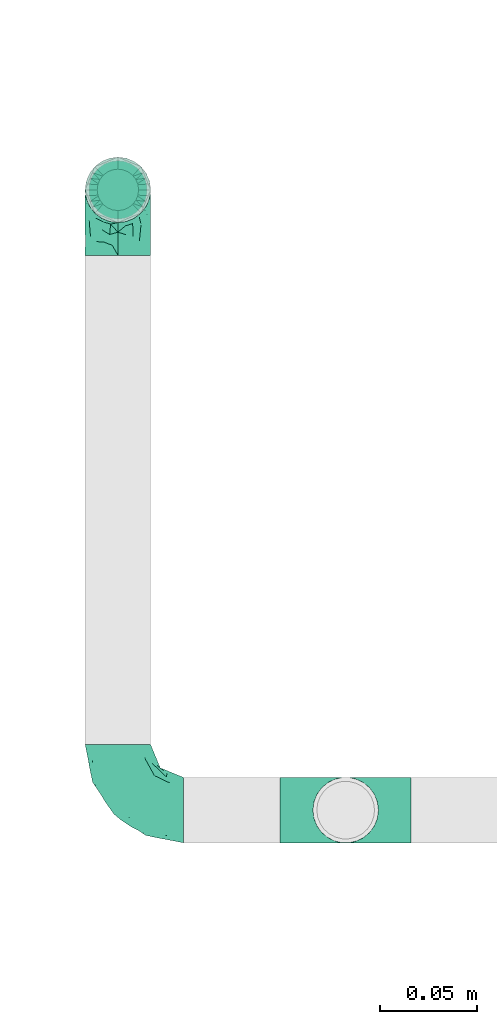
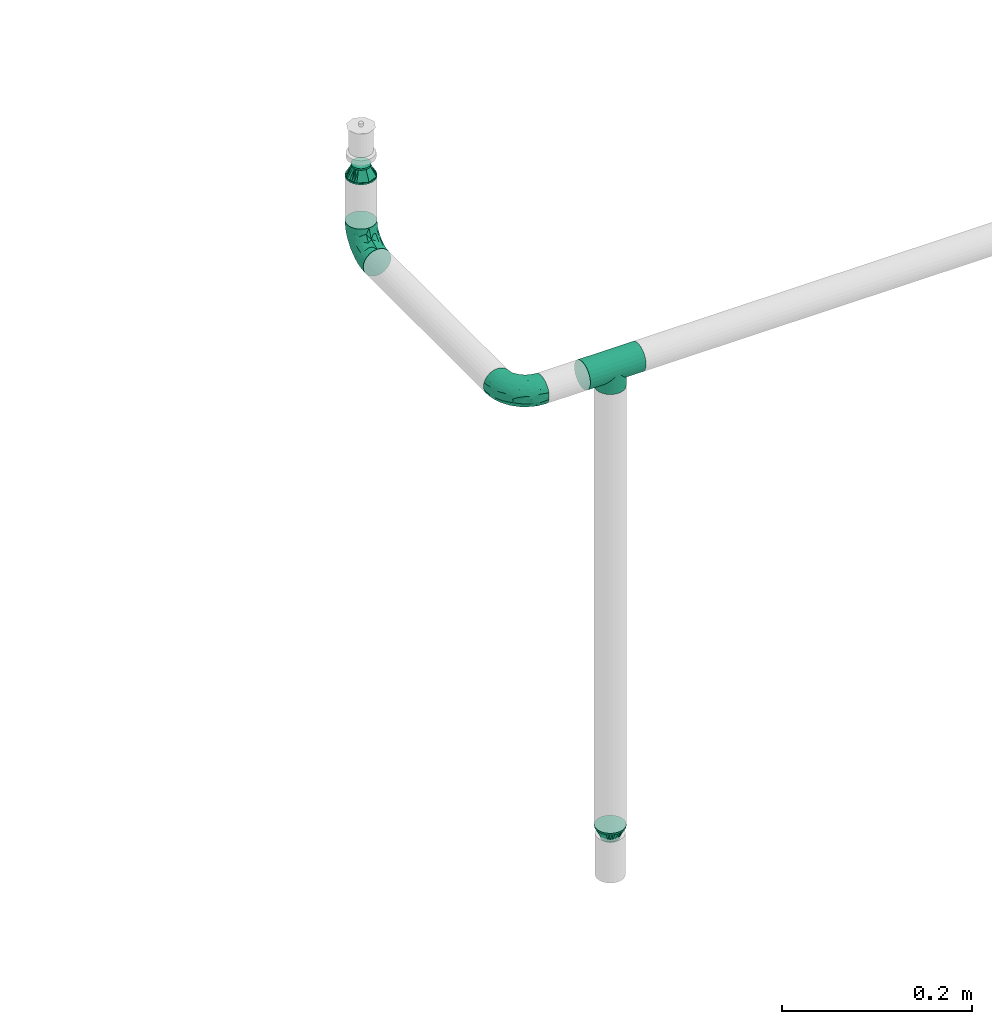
# One storey, part 78 of 94: 5 flow fittings.
"""IFC2X3 building model written with IfcOpenShell, lengths in millimetres."""

from ifc_helpers import new_model, entity, si_unit, converted_unit, derived_unit, direction, frame, origin_with_axes, place, context, subcontext, project, spatial, open_shell, surface_model, source, transform, mapped, type_object, element, save


model = new_model("IFC2X3")

# Units and contexts
model_context = context("Model", 3, precision=0.01, world=frame((0.0, 4.29681676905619e-09, 0.0)), true_north=direction((4.01073788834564e-13, 1.0)))
plan_context = context("Plan", 3, precision=0.01, world=frame((0.0, 4.29681676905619e-09, 0.0)), true_north=direction((4.01073788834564e-13, 1.0)))
body_context = subcontext(model_context, "Body", "Model", "MODEL_VIEW")
ifc_project = project(units=[converted_unit("PLANEANGLEUNIT", "DEGREE", entity("IfcPositiveLengthMeasure", 0.0174532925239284), si_unit("PLANEANGLEUNIT", "RADIAN"), dimensions=[0, 0, 0, 0, 0, 0, 0]), si_unit("AREAUNIT", "SQUARE_METRE"), si_unit("LENGTHUNIT", "METRE", prefix="MILLI"), si_unit("MASSUNIT", "GRAM", prefix="KILO"), si_unit("POWERUNIT", "WATT"), si_unit("PRESSUREUNIT", "PASCAL", prefix="KILO"), si_unit("FORCEUNIT", "NEWTON", prefix="KILO"), si_unit("ELECTRICVOLTAGEUNIT", "VOLT"), si_unit("ELECTRICCURRENTUNIT", "AMPERE"), si_unit("THERMODYNAMICTEMPERATUREUNIT", "DEGREE_CELSIUS"), si_unit("TIMEUNIT", "SECOND"), si_unit("VOLUMEUNIT", "CUBIC_METRE"), derived_unit("LINEARVELOCITYUNIT", [(si_unit("LENGTHUNIT", "METRE"), 1), (si_unit("TIMEUNIT", "SECOND"), -1)]), derived_unit("VOLUMETRICFLOWRATEUNIT", [(si_unit("VOLUMEUNIT", "CUBIC_METRE"), 1), (si_unit("TIMEUNIT", "SECOND"), -1)]), derived_unit("THERMALTRANSMITTANCEUNIT", [(si_unit("POWERUNIT", "WATT"), 1), (si_unit("THERMODYNAMICTEMPERATUREUNIT", "KELVIN"), -1), (si_unit("AREAUNIT", "SQUARE_METRE"), -1)]), derived_unit("SOUNDPRESSUREUNIT", [(si_unit("PRESSUREUNIT", "PASCAL"), 1)])], contexts=[model_context, plan_context])

# Site, building, storey
site_placement = place(None, frame((0.0, -4.29681676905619e-09, 0.0), z_axis=(0.0, 0.0, 1.0), x_axis=(1.0, 0.0, 0.0)))
site = spatial("IfcSite", under=ifc_project, at=site_placement, CompositionType="ELEMENT")
building_placement = place(site_placement, frame((0.0, 4.29681676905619e-09, 0.0), z_axis=(0.0, 0.0, 1.0), x_axis=(1.0, 0.0, 0.0)))
building = spatial("IfcBuilding", under=site, at=building_placement, Name="mc-building", CompositionType="ELEMENT")
storey_placement = place(building_placement, frame((0.0, 0.0, 210900.0), z_axis=(0.0, 0.0, 1.0), x_axis=(1.0, 0.0, 0.0)))
storey = spatial("IfcBuildingStorey", under=building, at=storey_placement, Name="Nivå F", CompositionType="ELEMENT", Elevation=210900.0)

# Flow fittings
pipe_fitting_type_1 = type_object("IfcPipeFittingType", Name="magi_pipe_fe_reducer_centric_short_NOR", PredefinedType="TRANSITION")
shared_shape_1 = source(origin_with_axes(), body_context, "Body", "SurfaceModel", [
    surface_model("IfcShellBasedSurfaceModel", [(14.4, 5.35, -9.26647), (14.4, 0.0, -10.7), (14.4, 2.76936, -10.33541), (14.4, 10.33541, -2.76936), (14.4, 7.56604, -7.56604), (14.4, -10.33541, -2.76936), (14.4, 9.26647, -5.35), (14.4, 0.0, 10.7), (14.4, -5.35, -9.26647), (14.4, -2.76936, -10.33541), (14.4, -7.56604, -7.56604), (14.4, -9.26647, -5.35), (14.4, 10.7, 0.0), (14.4, 10.33541, 2.76936), (14.4, 9.26647, 5.35), (14.4, 7.56604, 7.56604), (14.4, 2.76936, 10.33541), (14.4, 5.35, 9.26647), (14.4, -10.33541, 2.76936), (14.4, -7.56604, 7.56604), (14.4, -9.26647, 5.35), (14.4, -10.7, 0.0), (14.4, -2.76936, 10.33541), (14.4, -5.35, 9.26647), (12.4, 2.76936, 10.33541), (12.4, -10.33541, -2.76936), (12.4, 0.0, 10.7), (12.4, 5.35, 9.26647), (12.4, 7.56604, 7.56604), (12.4, 9.26647, 5.35), (12.4, 10.33541, 2.76936), (12.4, -10.33541, 2.76936), (12.4, -2.76936, 10.33541), (12.4, -7.56604, 7.56604), (12.4, -5.35, 9.26647), (12.4, -9.26647, 5.35), (12.4, -10.7, 0.0), (12.4, 10.33541, -2.76936), (12.4, 5.35, -9.26647), (12.4, 9.26647, -5.35), (12.4, 7.56604, -7.56604), (12.4, 2.76936, -10.33541), (12.4, -9.26647, -5.35), (12.4, -5.35, -9.26647), (12.4, -7.56604, -7.56604), (12.4, 0.0, -10.7), (12.4, -2.76936, -10.33541), (12.4, 10.7, 0.0), (-2.0, 11.9501, 11.9501), (-2.0, 0.0, 16.9), (-2.0, 4.37404, 16.32415), (-2.0, 8.45, 14.63583), (-2.0, 14.63583, 8.45), (-2.0, 16.32415, 4.37404), (-2.0, -16.32415, 4.37404), (-2.0, -8.45, 14.63583), (-2.0, -14.63583, 8.45), (-2.0, -11.9501, 11.9501), (-2.0, -4.37404, 16.32415), (-2.0, -16.32415, -4.37404), (-2.0, -16.9, 0.0), (-2.0, -8.45, -14.63583), (-2.0, 16.32415, -4.37404), (-2.0, 11.9501, -11.9501), (-2.0, 14.63583, -8.45), (-2.0, 8.45, -14.63583), (-2.0, 4.37404, -16.32415), (-2.0, 0.0, -16.9), (-2.0, -11.9501, -11.9501), (-2.0, -14.63583, -8.45), (-2.0, -4.37404, -16.32415), (-2.0, 16.9, 0.0), (0.0, 4.37404, -16.32415), (0.0, 8.45, -14.63583), (0.0, 11.9501, -11.9501), (0.0, 0.0, -16.9), (0.0, 16.32415, -4.37404), (0.0, 16.32415, 4.37404), (0.0, 14.63583, -8.45), (0.0, -8.45, -14.63583), (0.0, -4.37404, -16.32415), (0.0, -11.9501, -11.9501), (0.0, -16.32415, -4.37404), (0.0, -14.63583, -8.45), (0.0, -16.32415, 4.37404), (0.0, 16.9, 0.0), (0.0, 14.63583, 8.45), (0.0, 11.9501, 11.9501), (0.0, 4.37404, 16.32415), (0.0, 8.45, 14.63583), (0.0, 0.0, 16.9), (0.0, -14.63583, 8.45), (0.0, -16.9, 0.0), (0.0, -8.45, 14.63583), (0.0, -11.9501, 11.9501), (0.0, -4.37404, 16.32415), (12.4, 9.3625, -2.31662), (0.0, 14.42505, -5.97505), (0.0, 15.66253, -2.98753), (12.4, -6.6875, -6.94985), (0.0, -13.18758, -8.96258), (0.0, 2.98753, -15.66253), (12.4, 0.0, -9.26647), (12.4, 6.6875, -6.94985), (0.0, 8.96258, -13.18758), (12.4, -9.3625, -2.31662), (0.0, -15.66253, -2.98753), (0.0, -14.42505, -5.97505), (0.0, 5.97505, -14.42505), (0.0, -2.98753, -15.66253), (0.0, -8.96258, -13.18758), (0.0, 13.18758, -8.96258), (12.4, 8.025, -4.63324), (12.4, -2.675, -9.26647), (12.4, 2.675, -9.26647), (0.0, -5.97505, -14.42505), (12.4, -8.025, -4.63324), (12.4, -9.3625, 2.31662), (0.0, -14.42505, 5.97505), (0.0, -15.66253, 2.98753), (12.4, 6.6875, 6.94985), (0.0, 13.18758, 8.96258), (0.0, -2.98753, 15.66253), (12.4, 0.0, 9.26647), (12.4, -6.6875, 6.94985), (0.0, -8.96258, 13.18758), (12.4, 9.3625, 2.31662), (0.0, 15.66253, 2.98753), (0.0, 14.42505, 5.97505), (0.0, -5.97505, 14.42505), (0.0, 2.98753, 15.66253), (0.0, 8.96258, 13.18758), (0.0, -13.18758, 8.96258), (12.4, -8.025, 4.63324), (12.4, 2.675, 9.26647), (12.4, -2.675, 9.26647), (0.0, 5.97505, 14.42505), (12.4, 8.025, 4.63324)], [open_shell([[[0, 1, 2]], [[3, 0, 4]], [[5, 0, 3]], [[3, 4, 6]], [[7, 5, 3]], [[1, 8, 9]], [[1, 0, 8]], [[10, 5, 11]], [[5, 10, 8]], [[0, 5, 8]], [[3, 12, 13]], [[13, 14, 15]], [[13, 15, 16]], [[7, 3, 16]], [[16, 15, 17]], [[7, 18, 5]], [[18, 19, 20]], [[21, 5, 18]], [[19, 22, 23]], [[22, 19, 18]], [[7, 22, 18]], [[13, 16, 3]], [[24, 25, 26]], [[27, 25, 24]], [[28, 29, 30]], [[28, 25, 27]], [[31, 26, 25]], [[32, 33, 34]], [[33, 32, 31]], [[33, 31, 35]], [[32, 26, 31]], [[31, 25, 36]], [[30, 37, 28]], [[25, 28, 37]], [[38, 37, 39]], [[37, 38, 25]], [[38, 39, 40]], [[41, 25, 38]], [[42, 43, 44]], [[43, 42, 25]], [[43, 45, 46]], [[43, 25, 41]], [[41, 45, 43]], [[37, 30, 47]], [[25, 5, 36]], [[42, 11, 25]], [[8, 44, 43]], [[42, 44, 10]], [[9, 43, 46]], [[25, 11, 5]], [[5, 21, 36]], [[9, 8, 43]], [[10, 44, 8]], [[10, 11, 42]], [[1, 9, 46]], [[46, 45, 1]], [[41, 2, 45]], [[38, 0, 41]], [[6, 40, 39]], [[38, 40, 4]], [[3, 39, 37]], [[38, 4, 0]], [[0, 2, 41]], [[12, 3, 37]], [[6, 39, 3]], [[6, 4, 40]], [[47, 12, 37]], [[45, 2, 1]], [[30, 13, 47]], [[29, 14, 30]], [[17, 28, 27]], [[29, 28, 15]], [[16, 27, 24]], [[30, 14, 13]], [[13, 12, 47]], [[16, 17, 27]], [[15, 28, 17]], [[15, 14, 29]], [[7, 16, 24]], [[24, 26, 7]], [[32, 22, 26]], [[34, 23, 32]], [[20, 33, 35]], [[34, 33, 19]], [[18, 35, 31]], [[34, 19, 23]], [[23, 22, 32]], [[21, 18, 31]], [[20, 35, 18]], [[20, 19, 33]], [[36, 21, 31]], [[26, 22, 7]], [[48, 49, 50]], [[48, 50, 51]], [[48, 52, 53]], [[48, 53, 49]], [[49, 53, 54]], [[55, 56, 57]], [[55, 58, 49]], [[56, 55, 49]], [[49, 54, 56]], [[54, 59, 60]], [[54, 53, 61]], [[53, 62, 63]], [[63, 62, 64]], [[63, 65, 66]], [[61, 53, 63]], [[67, 63, 66]], [[59, 68, 69]], [[68, 59, 61]], [[61, 67, 70]], [[59, 54, 61]], [[63, 67, 61]], [[53, 71, 62]], [[72, 73, 74]], [[75, 72, 74]], [[74, 76, 77]], [[76, 74, 78]], [[74, 77, 79]], [[75, 79, 80]], [[75, 74, 79]], [[81, 82, 83]], [[82, 81, 79]], [[79, 84, 82]], [[77, 76, 85]], [[77, 86, 87]], [[77, 87, 88]], [[88, 84, 79]], [[88, 87, 89]], [[84, 88, 90]], [[90, 91, 84]], [[92, 82, 84]], [[91, 93, 94]], [[91, 90, 93]], [[93, 90, 95]], [[79, 77, 88]], [[59, 82, 60]], [[69, 83, 59]], [[79, 68, 61]], [[69, 68, 81]], [[80, 61, 70]], [[59, 83, 82]], [[82, 92, 60]], [[80, 79, 61]], [[81, 68, 79]], [[81, 83, 69]], [[75, 80, 70]], [[70, 67, 75]], [[66, 72, 67]], [[65, 73, 66]], [[78, 63, 64]], [[65, 63, 74]], [[76, 64, 62]], [[65, 74, 73]], [[73, 72, 66]], [[85, 76, 62]], [[78, 64, 76]], [[78, 74, 63]], [[71, 85, 62]], [[67, 72, 75]], [[53, 77, 71]], [[52, 86, 53]], [[89, 48, 51]], [[52, 48, 87]], [[88, 51, 50]], [[53, 86, 77]], [[77, 85, 71]], [[88, 89, 51]], [[87, 48, 89]], [[87, 86, 52]], [[90, 88, 50]], [[50, 49, 90]], [[58, 95, 49]], [[55, 93, 58]], [[91, 57, 56]], [[55, 57, 94]], [[84, 56, 54]], [[55, 94, 93]], [[93, 95, 58]], [[92, 84, 54]], [[91, 56, 84]], [[91, 94, 57]], [[60, 92, 54]], [[49, 95, 90]], [[27, 34, 47]], [[47, 34, 43]], [[43, 38, 47]], [[43, 34, 36]], [[90, 87, 94]], [[92, 94, 87]], [[87, 74, 92]], [[75, 92, 74]], [[81, 92, 75]], [[74, 87, 85]], [[96, 97, 98]], [[81, 99, 100]], [[101, 102, 75]], [[98, 85, 47]], [[74, 103, 104]], [[104, 103, 38]], [[105, 106, 107]], [[38, 108, 104]], [[102, 109, 75]], [[110, 99, 81]], [[47, 96, 98]], [[103, 111, 112]], [[109, 102, 113]], [[36, 92, 106]], [[102, 101, 114]], [[110, 115, 43]], [[96, 112, 97]], [[107, 116, 105]], [[36, 106, 105]], [[113, 115, 109]], [[43, 115, 113]], [[116, 107, 100]], [[108, 38, 114]], [[111, 103, 74]], [[111, 97, 112]], [[99, 110, 43]], [[116, 100, 99]], [[101, 108, 114]], [[117, 118, 119]], [[87, 120, 121]], [[122, 123, 90]], [[119, 92, 36]], [[94, 124, 125]], [[125, 124, 34]], [[126, 127, 128]], [[34, 129, 125]], [[123, 130, 90]], [[131, 120, 87]], [[36, 117, 119]], [[124, 132, 133]], [[130, 123, 134]], [[47, 85, 127]], [[123, 122, 135]], [[131, 136, 27]], [[117, 133, 118]], [[128, 137, 126]], [[47, 127, 126]], [[134, 136, 130]], [[27, 136, 134]], [[137, 128, 121]], [[129, 34, 135]], [[132, 124, 94]], [[132, 118, 133]], [[120, 131, 27]], [[137, 121, 120]], [[122, 129, 135]]])]),
])
for number, where, z_axis, x_axis, name in (
    (1, (718782.13546, 445190.0375, 3742.64799999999), (1.0, 0.0, 0.0), (0.0, 0.0, 1.0), "magi_pipe_fe_reducer_centric_short_NOR"),
    (2, (718899.7625, 444869.70099, 3059.35200000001), (-0.000893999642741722, -0.99999960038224, 0.0), (0.0, 0.0, -1.0), "magi_pipe_fe_reducer_centric_short_NOR"),
):
    element("IfcFlowFitting", number, at=place(storey_placement, frame(where, z_axis=z_axis, x_axis=x_axis)), inside=storey, type_object=pipe_fitting_type_1, Name=name, context=body_context, shape_type="MappedRepresentation", body=[
        mapped(shared_shape_1, transform((0.0, 0.0, 0.0), scale=1.0)),
    ])
pipe_fitting_type_2 = type_object("IfcPipeFittingType", Name="magi_pipe_fe_tee_centric_90_NOR", PredefinedType="JUNCTION")
shared_shape_2 = source(origin_with_axes(), body_context, "Body", "SurfaceModel", [
    surface_model("IfcShellBasedSurfaceModel", [(-33.8, 4.37404, -16.32415), (-33.8, 0.0, -16.9), (-33.8, 16.32415, -4.37404), (-33.8, 8.45, -14.63583), (-33.8, 11.9501, -11.9501), (-33.8, 14.63583, -8.45), (-33.8, -16.9, 0.0), (-33.8, -11.9501, -11.9501), (-33.8, -14.63583, -8.45), (-33.8, -8.45, -14.63583), (-33.8, -4.37404, -16.32415), (-33.8, -16.32415, -4.37404), (-33.8, 14.63583, 8.45), (-33.8, 16.32415, 4.37404), (-33.8, -8.45, 14.63583), (-33.8, 8.45, 14.63583), (-33.8, 11.9501, 11.9501), (-33.8, 4.37404, 16.32415), (-33.8, 0.0, 16.9), (-33.8, -11.9501, 11.9501), (-33.8, -14.63583, 8.45), (-33.8, -16.32415, 4.37404), (-33.8, -4.37404, 16.32415), (-33.8, 16.9, 0.0), (33.8, 4.37404, -16.32415), (33.8, -16.9, 0.0), (33.8, 0.0, -16.9), (33.8, 14.63583, -8.45), (33.8, 8.45, -14.63583), (33.8, 16.32415, -4.37404), (33.8, 11.9501, -11.9501), (33.8, -16.32415, 4.37404), (33.8, -8.45, -14.63583), (33.8, -4.37404, -16.32415), (33.8, -11.9501, -11.9501), (33.8, -14.63583, -8.45), (33.8, -16.32415, -4.37404), (33.8, 16.32415, 4.37404), (33.8, 8.45, 14.63583), (33.8, 14.63583, 8.45), (33.8, 11.9501, 11.9501), (33.8, -8.45, 14.63583), (33.8, 4.37404, 16.32415), (33.8, -14.63583, 8.45), (33.8, -11.9501, 11.9501), (33.8, 0.0, 16.9), (33.8, -4.37404, 16.32415), (33.8, 16.9, 0.0), (16.28698, -16.28698, 4.51047), (16.9, -16.9, 0.0), (14.62704, -14.62704, 8.4652), (9.47213, -9.47213, 13.99602), (12.26343, -12.26343, 11.62834), (-16.9, -16.9, 0.0), (-16.28698, -16.28698, 4.51047), (-14.62704, -14.62704, 8.4652), (-12.26343, -12.26343, 11.62834), (-9.47213, -9.47213, 13.99602), (-6.42894, -6.42894, 15.62942), (6.42894, -6.42894, 15.62942), (3.24522, -3.24522, 16.58549), (0.0, 0.0, 16.9), (-3.24522, -3.24522, 16.58549), (3.24522, -3.24522, -16.58549), (0.0, 0.0, -16.9), (-3.24522, -3.24522, -16.58549), (-6.42894, -6.42894, -15.62942), (6.42894, -6.42894, -15.62942), (9.47213, -9.47213, -13.99602), (12.26343, -12.26343, -11.62834), (14.62704, -14.62704, -8.4652), (16.28698, -16.28698, -4.51047), (-9.47213, -9.47213, -13.99602), (-12.26343, -12.26343, -11.62834), (-16.28698, -16.28698, -4.51047), (-14.62704, -14.62704, -8.4652), (4.37404, -25.35, -16.32415), (-16.9, -25.35, 0.0), (0.0, -25.35, -16.9), (14.63583, -25.35, -8.45), (8.45, -25.35, -14.63583), (16.32415, -25.35, -4.37404), (11.9501, -25.35, -11.9501), (-11.9501, -25.35, -11.9501), (-8.45, -25.35, -14.63583), (-4.37404, -25.35, -16.32415), (-14.63583, -25.35, -8.45), (-16.32415, -25.35, -4.37404), (16.9, -25.35, 0.0), (8.45, -25.35, 14.63583), (16.32415, -25.35, 4.37404), (14.63583, -25.35, 8.45), (-8.45, -25.35, 14.63583), (11.9501, -25.35, 11.9501), (4.37404, -25.35, 16.32415), (-16.32415, -25.35, 4.37404), (-11.9501, -25.35, 11.9501), (-14.63583, -25.35, 8.45), (0.0, -25.35, 16.9), (-4.37404, -25.35, 16.32415)], [open_shell([[[0, 1, 2]], [[3, 0, 4]], [[0, 2, 5]], [[4, 0, 5]], [[6, 2, 1]], [[7, 8, 9]], [[1, 10, 9]], [[11, 6, 8]], [[1, 9, 8]], [[1, 8, 6]], [[6, 12, 2]], [[12, 13, 2]], [[14, 12, 6]], [[12, 14, 15]], [[16, 12, 15]], [[17, 15, 18]], [[19, 14, 20]], [[21, 20, 14]], [[22, 18, 14]], [[14, 6, 21]], [[14, 18, 15]], [[23, 2, 13]], [[24, 25, 26]], [[27, 24, 28]], [[27, 29, 24]], [[27, 28, 30]], [[31, 25, 24]], [[26, 32, 33]], [[26, 34, 32]], [[35, 25, 36]], [[35, 34, 26]], [[25, 35, 26]], [[24, 29, 31]], [[29, 37, 38]], [[38, 37, 39]], [[38, 31, 29]], [[38, 39, 40]], [[41, 38, 42]], [[43, 41, 44]], [[41, 43, 31]], [[41, 45, 46]], [[41, 31, 38]], [[42, 45, 41]], [[29, 47, 37]], [[31, 43, 48]], [[25, 31, 49]], [[49, 31, 48]], [[43, 50, 48]], [[44, 41, 51]], [[50, 43, 52]], [[51, 52, 44]], [[52, 43, 44]], [[53, 54, 21]], [[53, 21, 6]], [[21, 54, 20]], [[54, 55, 20]], [[56, 57, 19]], [[19, 20, 56]], [[19, 57, 14]], [[56, 20, 55]], [[14, 57, 58]], [[51, 41, 59]], [[60, 45, 61]], [[59, 46, 60]], [[46, 59, 41]], [[60, 46, 45]], [[61, 45, 42]], [[39, 37, 13]], [[16, 38, 40]], [[12, 40, 39]], [[42, 38, 15]], [[23, 37, 47]], [[62, 61, 18]], [[62, 22, 58]], [[22, 62, 18]], [[58, 22, 14]], [[61, 17, 18]], [[42, 17, 61]], [[15, 17, 42]], [[15, 38, 16]], [[12, 16, 40]], [[13, 12, 39]], [[37, 23, 13]], [[5, 27, 30]], [[23, 47, 29]], [[30, 28, 3]], [[27, 2, 29]], [[26, 33, 63]], [[26, 64, 24]], [[64, 26, 63]], [[28, 24, 0]], [[64, 0, 24]], [[4, 30, 3]], [[2, 27, 5]], [[5, 30, 4]], [[2, 23, 29]], [[65, 66, 10]], [[1, 0, 64]], [[1, 65, 10]], [[66, 9, 10]], [[0, 3, 28]], [[1, 64, 65]], [[63, 33, 67]], [[32, 34, 68]], [[69, 68, 34]], [[35, 70, 69]], [[69, 34, 35]], [[32, 68, 67]], [[36, 25, 49]], [[36, 71, 35]], [[71, 36, 49]], [[35, 71, 70]], [[72, 9, 66]], [[72, 7, 9]], [[7, 72, 73]], [[7, 73, 8]], [[74, 53, 11]], [[75, 74, 8]], [[74, 11, 8]], [[11, 53, 6]], [[75, 8, 73]], [[32, 67, 33]], [[76, 77, 78]], [[79, 76, 80]], [[79, 81, 76]], [[79, 80, 82]], [[77, 76, 81]], [[78, 83, 84]], [[84, 85, 78]], [[86, 77, 87]], [[83, 78, 86]], [[77, 86, 78]], [[81, 88, 77]], [[89, 88, 90]], [[89, 90, 91]], [[92, 77, 89]], [[89, 91, 93]], [[92, 89, 94]], [[95, 96, 97]], [[96, 95, 92]], [[92, 98, 99]], [[95, 77, 92]], [[94, 98, 92]], [[89, 77, 88]], [[77, 95, 53]], [[54, 53, 95]], [[97, 96, 56]], [[96, 92, 57]], [[95, 97, 54]], [[58, 92, 99]], [[55, 54, 97]], [[56, 55, 97]], [[58, 57, 92]], [[98, 61, 62]], [[58, 99, 62]], [[56, 96, 57]], [[62, 99, 98]], [[94, 60, 98]], [[89, 59, 94]], [[91, 90, 48]], [[52, 93, 91]], [[93, 51, 89]], [[49, 90, 88]], [[59, 60, 94]], [[51, 59, 89]], [[49, 48, 90]], [[50, 52, 91]], [[48, 50, 91]], [[51, 93, 52]], [[98, 60, 61]], [[88, 81, 49]], [[71, 49, 81]], [[79, 82, 69]], [[82, 80, 68]], [[81, 79, 71]], [[67, 80, 76]], [[70, 71, 79]], [[69, 70, 79]], [[67, 68, 80]], [[78, 64, 63]], [[67, 76, 63]], [[69, 82, 68]], [[63, 76, 78]], [[85, 65, 78]], [[84, 66, 85]], [[86, 87, 74]], [[86, 73, 83]], [[72, 84, 83]], [[53, 87, 77]], [[66, 65, 85]], [[72, 66, 84]], [[53, 74, 87]], [[75, 73, 86]], [[74, 75, 86]], [[72, 83, 73]], [[78, 65, 64]]])]),
])
flow_fitting_placement = place(storey_placement, frame((718899.7625, 444869.70099, 3650.0), z_axis=(0.0, -1.0, 0.0), x_axis=(1.0, 0.0, 0.0)))
element("IfcFlowFitting", 3, at=flow_fitting_placement, inside=storey, type_object=pipe_fitting_type_2, Name="magi_pipe_fe_tee_centric_90_NOR", context=body_context, shape_type="MappedRepresentation", body=[
    mapped(shared_shape_2, transform((0.0, 0.0, 0.0), scale=1.0)),
])
pipe_fitting_type_3 = type_object("IfcPipeFittingType", Name="magi_pipe_fe_elbow_short_001", PredefinedType="BEND")
shared_shape_3 = source(origin_with_axes(), body_context, "Body", "SurfaceModel", [
    surface_model("IfcShellBasedSurfaceModel", [(-33.8, 8.45, -14.63583), (-33.8, 4.37404, -16.32415), (-33.8, 11.9501, -11.9501), (-33.8, -11.9501, -11.9501), (-33.8, -14.63583, -8.45), (-33.8, -8.45, -14.63583), (-33.8, 0.0, -16.9), (-33.8, -4.37404, -16.32415), (-33.8, -4.37404, 16.32415), (-33.8, 0.0, 16.9), (-33.8, -8.45, 14.63583), (-33.8, 16.32415, -4.37404), (-33.8, 14.63583, -8.45), (-33.8, -16.32415, -4.37404), (-33.8, -16.9, 0.0), (-33.8, -16.32415, 4.37404), (-33.8, 11.9501, 11.9501), (-33.8, 14.63583, 8.45), (-33.8, 16.32415, 4.37404), (-33.8, 4.37404, 16.32415), (-33.8, 8.45, 14.63583), (-33.8, -14.63583, 8.45), (-33.8, -11.9501, 11.9501), (-33.8, 16.9, 0.0), (-11.9501, 33.8, -11.9501), (0.0, 33.8, -16.9), (-4.37404, 33.8, -16.32415), (-8.45, 33.8, -14.63583), (-14.63583, 33.8, -8.45), (-16.32415, 33.8, -4.37404), (14.63583, 33.8, -8.45), (8.45, 33.8, 14.63583), (16.32415, 33.8, -4.37404), (8.45, 33.8, -14.63583), (11.9501, 33.8, -11.9501), (4.37404, 33.8, -16.32415), (16.32415, 33.8, 4.37404), (16.9, 33.8, 0.0), (-11.9501, 33.8, 11.9501), (-16.32415, 33.8, 4.37404), (-14.63583, 33.8, 8.45), (-8.45, 33.8, 14.63583), (-4.37404, 33.8, 16.32415), (11.9501, 33.8, 11.9501), (14.63583, 33.8, 8.45), (0.0, 33.8, 16.9), (4.37404, 33.8, 16.32415), (-16.9, 33.8, 0.0), (-24.79389, -13.12945, 9.48721), (-22.19287, -9.75018, 12.59315), (-24.09897, -14.97035, 0.0), (-14.93934, -10.76256, 8.5297), (-22.46095, -14.75051, 5.27077), (14.75051, 22.46094, 5.27077), (11.9251, 13.23888, 4.33236), (13.04069, 14.39795, 0.0), (7.71387, 13.68847, 11.55891), (9.75018, 22.19287, 12.59315), (4.10169, 13.0571, 14.04018), (-24.84007, -6.39063, 15.2048), (-25.81779, -2.23879, 16.61097), (-23.66549, 2.59054, 16.87119), (-26.50418, 14.06512, 11.08152), (-24.21253, 17.66365, 7.72657), (-29.58514, 15.86957, 7.00283), (-6.17382, -7.5455, 0.0), (-13.23888, -11.9251, 4.33236), (-14.39795, -13.04069, 0.0), (-17.81434, 18.87373, 11.97104), (-6.30846, 29.15138, 15.82987), (-2.31622, 25.28002, 16.85849), (-29.23923, 10.23435, 13.77053), (-1.45439, -2.85688, 7.61475), (-0.28326, 0.34872, 10.09509), (-5.74484, -4.04709, 10.4122), (-4.41137, 11.31918, 16.59407), (-8.39727, 3.10034, 15.7812), (-1.72649, 9.1306, 15.53089), (-17.39909, 24.75344, 7.64977), (-26.19233, 20.0512, 0.0), (-28.14518, 17.29657, 4.25857), (-26.05147, 6.6281, 15.96447), (-5.87354, 16.61944, 16.86968), (-12.51807, 12.51807, 16.48937), (-10.06312, 7.38516, 16.81295), (-3.01882, 3.01882, 13.81718), (-13.0571, -4.10169, 14.04018), (-16.82553, -0.15166, 16.38038), (10.76256, 14.93934, 8.5297), (13.12945, 24.79389, 9.48721), (6.39063, 24.84007, 15.2048), (2.23879, 25.81779, 16.61097), (-13.68847, -7.71387, 11.55891), (14.97035, 24.09897, 0.0), (-7.30894, 22.89991, 16.09489), (-10.67958, 26.17414, 14.008), (-12.78295, 18.26924, 15.06066), (-13.88562, 22.45231, 12.93244), (-18.04944, 15.16501, 14.04434), (-23.11658, 20.08178, 4.02986), (-21.84989, 21.84989, 0.0), (-18.55817, 25.48277, 3.93065), (-13.95142, 26.94732, 11.03289), (-18.57098, 7.23906, 16.59756), (-16.58335, 4.14122, 16.89279), (-17.96666, 11.46709, 15.63151), (-9.84453, 17.54304, 16.18938), (0.15166, 16.82553, 16.38038), (-23.27207, 11.47201, 14.23154), (3.84842, 5.86994, 10.70473), (-8.0212, -7.54413, 7.93275), (1.00345, -2.19508, 4.57414), (5.13203, 3.01004, 5.90201), (5.24161, 1.7543, 2.53265), (8.70457, 7.04947, 3.99182), (-20.0512, 26.19233, 0.0), (8.4852, 8.76699, 7.09296), (-4.55488, -6.72064, 4.90681), (2.05031, -2.05031, 0.0), (7.5455, 6.17382, 0.0), (-26.75399, 2.1369, -16.845), (-14.61995, 24.73803, -11.27736), (-28.45274, -13.45335, -9.81895), (-26.00469, 6.63555, -15.96645), (-23.06726, 20.04573, -4.26202), (-13.80647, -4.26506, -14.17873), (-14.67501, -0.21081, -16.07388), (-6.7902, -0.2828, -13.8478), (-24.53586, 11.08096, -14.13417), (-26.72048, 14.00837, -11.05776), (10.0967, 24.44989, -12.75976), (5.83237, 21.40218, -15.03047), (6.66249, 28.54238, -15.38093), (-20.38182, 15.48705, -12.74596), (12.53268, 21.23441, -9.15363), (12.54494, 15.67504, -5.54878), (9.7522, 12.89279, -8.66343), (-15.65186, 19.64213, -13.01327), (-12.03528, 20.66498, -14.67665), (-15.61907, 15.61906, -14.83879), (-25.56551, -15.26206, 0.0), (-24.65452, -15.12934, -5.50955), (13.45335, 28.45274, -9.81895), (15.12934, 24.65452, -5.50955), (-7.35442, -8.31014, -5.65563), (-15.67504, -12.54494, -5.54878), (-24.44989, -10.0967, -12.75976), (0.16522, 0.41303, -9.71728), (-5.70658, -5.33066, -8.89288), (-5.13869, -2.37198, -11.53565), (-21.23441, -12.53268, -9.15363), (0.71146, 7.93863, -14.09382), (0.21081, 14.67501, -16.07388), (3.49291, 14.42772, -14.76381), (-24.89911, -2.13088, -16.591), (-28.54238, -6.66249, -15.38093), (-18.44386, -7.71663, -13.26957), (2.13088, 24.89911, -16.591), (-28.64342, 17.44413, -2.89318), (1.70017, -1.28722, -5.09504), (-16.57067, 26.81947, -7.36596), (-17.69055, 27.4263, -3.76405), (-12.89279, -9.7522, -8.66343), (-5.96611, 5.96611, -15.95814), (-20.53709, 20.09345, -8.28985), (-2.1369, 26.75399, -16.845), (-6.89872, 24.58781, -16.02578), (-10.60739, 26.53157, -13.98044), (-21.40218, -5.83237, -15.03047), (2.93192, 5.89627, -11.55917), (6.89393, 12.61842, -11.82233), (5.58056, 5.95325, -8.79455), (-3.99512, 18.61798, -16.89635), (8.31014, 7.35442, -5.65563), (-9.1383, 9.86148, -16.89041), (-9.99983, 16.02119, -16.39699), (-16.68576, 9.78031, -16.34199), (-27.01915, 16.61158, -7.12979), (15.26206, 25.56551, 0.0), (-18.61798, 3.99512, -16.89635), (-19.37495, 27.82495, 0.0), (-12.61842, -6.89393, -11.82233), (-18.84705, 19.14018, -10.96545)], [open_shell([[[0, 1, 2]], [[3, 4, 5]], [[6, 7, 5]], [[8, 9, 10]], [[1, 6, 2]], [[11, 12, 2]], [[4, 2, 6]], [[2, 13, 10]], [[5, 4, 6]], [[2, 4, 13]], [[14, 15, 13]], [[11, 2, 16]], [[11, 17, 18]], [[11, 16, 17]], [[19, 20, 16]], [[16, 2, 10]], [[19, 16, 10]], [[21, 22, 15]], [[22, 13, 15]], [[22, 10, 13]], [[10, 9, 19]], [[11, 18, 23]], [[24, 25, 26]], [[24, 26, 27]], [[24, 28, 29]], [[25, 24, 30]], [[31, 32, 24]], [[33, 30, 34]], [[33, 35, 25]], [[25, 30, 33]], [[32, 30, 24]], [[32, 36, 37]], [[38, 24, 29]], [[39, 40, 29]], [[40, 38, 29]], [[38, 41, 42]], [[38, 31, 24]], [[31, 38, 42]], [[36, 43, 44]], [[36, 32, 43]], [[31, 45, 46]], [[32, 31, 43]], [[42, 45, 31]], [[39, 29, 47]], [[22, 48, 49]], [[15, 14, 50]], [[51, 48, 52]], [[53, 54, 55]], [[48, 22, 21]], [[15, 52, 21]], [[56, 57, 58]], [[49, 10, 22]], [[49, 59, 10]], [[9, 60, 61]], [[62, 63, 64]], [[65, 66, 67]], [[57, 43, 31]], [[62, 68, 63]], [[42, 69, 70]], [[20, 71, 16]], [[8, 60, 9]], [[72, 73, 74]], [[75, 76, 77]], [[16, 62, 17]], [[40, 39, 78]], [[79, 23, 80]], [[64, 18, 17]], [[9, 61, 19]], [[19, 81, 20]], [[82, 83, 84]], [[74, 85, 86]], [[59, 86, 87]], [[88, 89, 57]], [[90, 31, 46]], [[44, 53, 36]], [[46, 45, 91]], [[54, 53, 88]], [[44, 89, 53]], [[92, 86, 49]], [[89, 44, 43]], [[10, 59, 8]], [[53, 55, 93]], [[93, 36, 53]], [[66, 52, 67]], [[94, 82, 70]], [[95, 96, 94]], [[97, 98, 96]], [[79, 99, 100]], [[41, 38, 95]], [[101, 100, 99]], [[68, 78, 63]], [[42, 41, 69]], [[23, 18, 80]], [[95, 94, 69]], [[78, 101, 99]], [[38, 102, 95]], [[70, 45, 42]], [[97, 95, 102]], [[15, 50, 52]], [[90, 57, 31]], [[57, 90, 58]], [[81, 19, 61]], [[103, 104, 84]], [[105, 81, 103]], [[38, 40, 102]], [[106, 96, 83]], [[94, 106, 82]], [[91, 70, 107]], [[71, 62, 16]], [[62, 108, 98]], [[86, 59, 49]], [[67, 52, 50]], [[60, 59, 87]], [[92, 49, 51]], [[86, 85, 76]], [[91, 90, 46]], [[37, 36, 93]], [[107, 77, 58]], [[107, 58, 90]], [[58, 85, 109]], [[110, 74, 92]], [[72, 74, 110]], [[66, 51, 52]], [[72, 111, 112]], [[113, 114, 112]], [[56, 88, 57]], [[52, 48, 21]], [[49, 48, 51]], [[57, 89, 43]], [[53, 89, 88]], [[103, 81, 61]], [[71, 81, 108]], [[18, 64, 80]], [[63, 78, 99]], [[47, 115, 101]], [[101, 115, 100]], [[40, 78, 102]], [[68, 102, 78]], [[97, 96, 95]], [[105, 98, 108]], [[103, 84, 83]], [[107, 70, 82]], [[76, 84, 87]], [[82, 84, 75]], [[70, 91, 45]], [[90, 91, 107]], [[59, 60, 8]], [[61, 60, 87]], [[73, 85, 74]], [[109, 112, 116]], [[103, 61, 104]], [[105, 103, 83]], [[96, 105, 83]], [[81, 105, 108]], [[96, 98, 105]], [[62, 98, 68]], [[61, 87, 104]], [[87, 84, 104]], [[86, 76, 87]], [[77, 76, 85]], [[58, 77, 85]], [[75, 77, 107]], [[82, 75, 107]], [[76, 75, 84]], [[81, 71, 20]], [[62, 71, 108]], [[95, 69, 41]], [[70, 69, 94]], [[62, 64, 17]], [[80, 63, 99]], [[63, 80, 64]], [[80, 99, 79]], [[66, 65, 117]], [[110, 66, 117]], [[112, 114, 116]], [[118, 117, 65]], [[110, 92, 51]], [[112, 111, 113]], [[119, 55, 54]], [[74, 86, 92]], [[58, 109, 56]], [[116, 56, 109]], [[66, 110, 51]], [[72, 110, 117]], [[111, 72, 117]], [[73, 112, 109]], [[117, 118, 111]], [[113, 111, 118]], [[118, 119, 113]], [[114, 119, 54]], [[119, 114, 113]], [[116, 54, 88]], [[54, 116, 114]], [[116, 88, 56]], [[112, 73, 72]], [[85, 73, 109]], [[78, 39, 101]], [[47, 101, 39]], [[102, 68, 97]], [[97, 68, 98]], [[82, 106, 83]], [[94, 96, 106]], [[1, 120, 6]], [[28, 24, 121]], [[3, 122, 4]], [[0, 123, 1]], [[100, 124, 79]], [[125, 126, 127]], [[128, 2, 129]], [[130, 131, 132]], [[128, 129, 133]], [[134, 135, 136]], [[137, 138, 139]], [[128, 0, 2]], [[67, 140, 141]], [[134, 142, 143]], [[141, 13, 4]], [[144, 65, 145]], [[146, 3, 5]], [[147, 148, 149]], [[145, 141, 150]], [[151, 152, 153]], [[154, 7, 6]], [[5, 155, 146]], [[150, 146, 156]], [[155, 5, 7]], [[143, 135, 134]], [[35, 157, 25]], [[23, 79, 158]], [[148, 159, 144]], [[160, 161, 29]], [[145, 162, 144]], [[163, 152, 151]], [[29, 28, 160]], [[121, 164, 160]], [[33, 34, 130]], [[25, 165, 26]], [[26, 165, 166]], [[142, 34, 30]], [[24, 27, 167]], [[124, 161, 164]], [[157, 35, 132]], [[155, 154, 168]], [[123, 0, 128]], [[169, 170, 171]], [[172, 157, 152]], [[26, 166, 27]], [[132, 35, 33]], [[142, 130, 34]], [[168, 154, 126]], [[136, 135, 173]], [[133, 137, 139]], [[2, 12, 129]], [[170, 131, 130]], [[30, 32, 143]], [[172, 174, 175]], [[176, 123, 128]], [[158, 177, 11]], [[135, 55, 119]], [[167, 27, 166]], [[175, 166, 172]], [[137, 167, 138]], [[122, 141, 4]], [[140, 14, 13]], [[32, 37, 178]], [[170, 130, 134]], [[152, 157, 131]], [[165, 157, 172]], [[153, 170, 151]], [[152, 163, 174]], [[168, 125, 156]], [[122, 146, 150]], [[120, 154, 6]], [[179, 174, 126]], [[179, 126, 154]], [[126, 163, 127]], [[162, 145, 150]], [[140, 13, 141]], [[32, 178, 143]], [[55, 143, 178]], [[177, 129, 12]], [[128, 133, 139]], [[176, 128, 139]], [[120, 123, 179]], [[121, 160, 28]], [[161, 100, 180]], [[166, 175, 138]], [[121, 24, 167]], [[161, 47, 29]], [[79, 124, 158]], [[124, 164, 177]], [[161, 124, 100]], [[136, 171, 170]], [[127, 163, 151]], [[147, 171, 159]], [[148, 144, 162]], [[127, 151, 169]], [[127, 181, 125]], [[129, 177, 164]], [[12, 11, 177]], [[159, 65, 144]], [[67, 141, 145]], [[143, 55, 135]], [[135, 119, 173]], [[123, 120, 1]], [[154, 120, 179]], [[157, 165, 25]], [[166, 165, 172]], [[172, 152, 174]], [[176, 139, 175]], [[126, 174, 163]], [[176, 174, 179]], [[174, 176, 175]], [[123, 176, 179]], [[150, 181, 162]], [[127, 149, 181]], [[181, 148, 162]], [[159, 148, 147]], [[171, 136, 173]], [[170, 134, 136]], [[159, 171, 173]], [[171, 147, 169]], [[169, 147, 149]], [[151, 170, 169]], [[164, 182, 129]], [[182, 121, 137]], [[181, 149, 148]], [[169, 149, 127]], [[182, 137, 133]], [[167, 137, 121]], [[166, 138, 167]], [[175, 139, 138]], [[129, 182, 133]], [[121, 182, 164]], [[161, 160, 164]], [[47, 161, 180]], [[177, 158, 124]], [[23, 158, 11]], [[130, 132, 33]], [[157, 132, 131]], [[143, 142, 30]], [[130, 142, 134]], [[154, 155, 7]], [[146, 155, 168]], [[146, 122, 3]], [[141, 122, 150]], [[152, 131, 153]], [[159, 119, 118]], [[67, 145, 65]], [[170, 153, 131]], [[119, 159, 173]], [[159, 118, 65]], [[156, 125, 181]], [[126, 125, 168]], [[150, 156, 181]], [[168, 156, 146]]])]),
])
for number, where, z_axis, x_axis, name in (
    (4, (718782.13546, 444869.70099, 3650.0), (0.0, 0.0, 1.0), (0.0, -1.0, 0.0), "magi_pipe_fe_elbow_short_001"),
    (5, (718782.13546, 445190.0375, 3650.0), (1.0, 0.0, 0.0), (0.0, 1.0, 0.0), "magi_pipe_fe_elbow_short_001"),
):
    element("IfcFlowFitting", number, at=place(storey_placement, frame(where, z_axis=z_axis, x_axis=x_axis)), inside=storey, type_object=pipe_fitting_type_3, Name=name, context=body_context, shape_type="MappedRepresentation", body=[
        mapped(shared_shape_3, transform((0.0, 0.0, 0.0), scale=1.0)),
    ])

save(model, "model.ifc")
